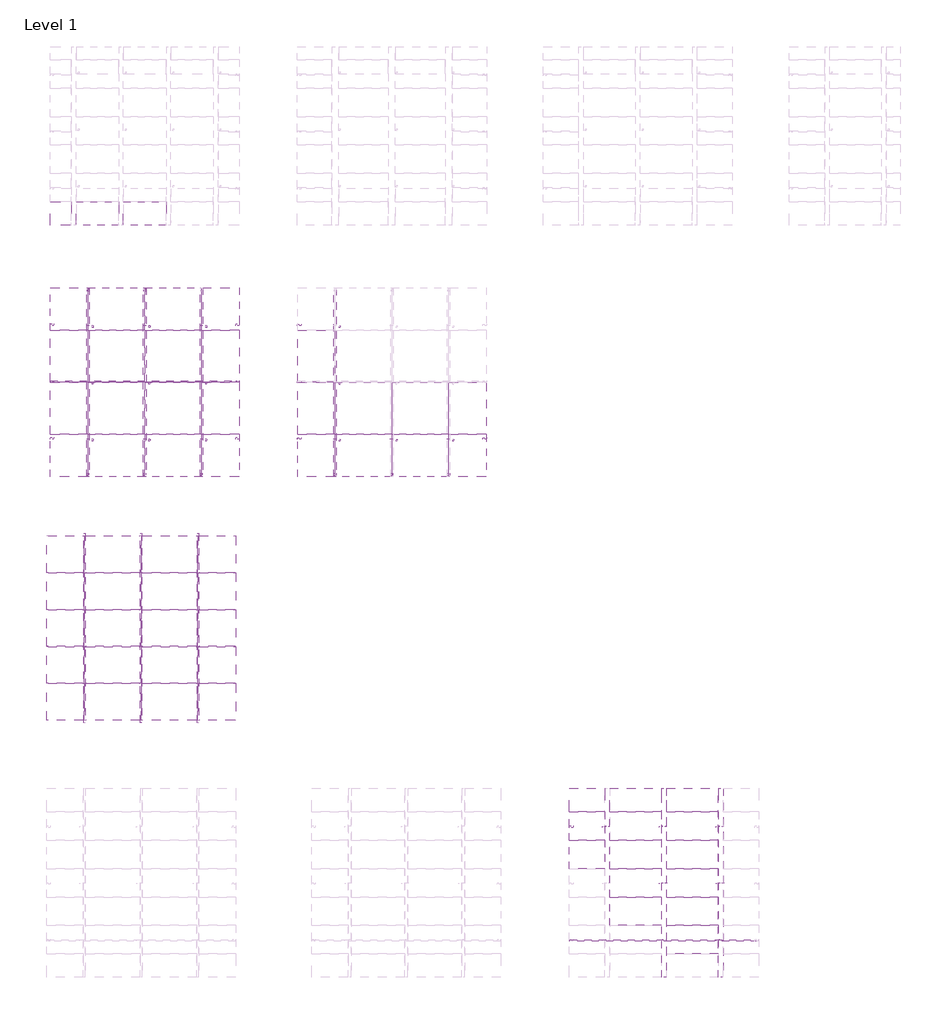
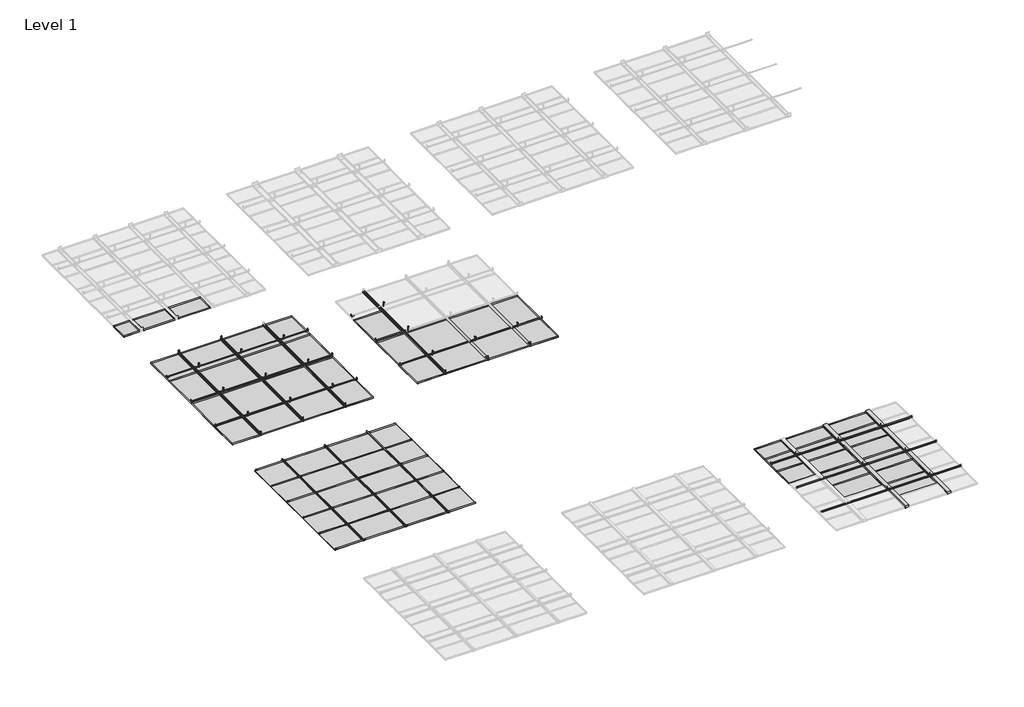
# One storey, part 2 of 32: 138 proxies.
"""IFC4 building model written with IfcOpenShell, lengths in millimetres."""

from ifc_helpers import new_model, si_unit, origin, place, context, project, spatial, transform, mapped, element, save
from components import generic_models_d1e42ad1, generic_models_d966d1ea, generic_models_a91f9f0f, generic_models_3457c1c0, generic_models_81118a57, generic_models_674eb8ab, generic_models_f7436aae, generic_models_c480849c, generic_models_9048d963, generic_models_4de4666e, generic_models_ac107275, generic_models_25bc2594, generic_models_84b6d0ed, generic_models_a920f71d, generic_models_5d724c03, generic_models_0fcaee43, generic_models_6363a089, generic_models_a7669d07, generic_models_2307843b, generic_models_9e18e937, generic_models_28f6a95c, generic_models_9ccf16c1, generic_models_743fb40c

model = new_model("IFC4")

# Units and contexts
model_context = context("Model", 3, world=origin())
ifc_project = project(units=[si_unit("LENGTHUNIT", "METRE", prefix="MILLI")], contexts=[model_context])

# Site, building, storey
site = spatial("IfcSite", under=ifc_project)
building = spatial("IfcBuilding", under=site)
storey = spatial("IfcBuildingStorey", under=building, Name="Level 1", Elevation=0.0)

# Proxies
placement = place(None, origin())
generic_models_shape = generic_models_d1e42ad1(model_context)
element("IfcBuildingElementProxy", 1, Name="durlum_S7_RHOMBOS : durlum_S7_RHOMBOS", ObjectType="durlum_S7_RHOMBOS : durlum_S7_RHOMBOS", at=placement, inside=storey, context=model_context, shape_type="MappedRepresentation", body=[
    mapped(generic_models_shape, transform((-44221.0989201, -7677.9044832, 0.0), x_axis=(1.0, 0.0, 0.0), y_axis=(0.0, 1.0, 0.0), z_axis=(0.0, 0.0, 1.0))),
])
generic_models_2_shape = generic_models_d966d1ea(model_context)
element("IfcBuildingElementProxy", 2, Name="durlum_S7_RHOMBOS_panel : durlum_S7_RHOMBOS_panel", ObjectType="durlum_S7_RHOMBOS_panel : durlum_S7_RHOMBOS_panel", at=placement, inside=storey, context=model_context, shape_type="MappedRepresentation", body=[
    mapped(generic_models_2_shape, transform((-44821.0989201, -8227.9044832, 3800.0), x_axis=(1.0, 0.0, 0.0), y_axis=(0.0, 1.0, 0.0), z_axis=(0.0, 0.0, 1.0))),
])
element("IfcBuildingElementProxy", 3, Name="durlum_S7_RHOMBOS_panel : durlum_S7_RHOMBOS_panel", ObjectType="durlum_S7_RHOMBOS_panel : durlum_S7_RHOMBOS_panel", at=placement, inside=storey, context=model_context, shape_type="MappedRepresentation", body=[
    mapped(generic_models_2_shape, transform((-43621.0989201, -8227.9044832, 3800.0), x_axis=(1.0, 0.0, 0.0), y_axis=(0.0, 1.0, 0.0), z_axis=(0.0, 0.0, 1.0))),
])
element("IfcBuildingElementProxy", 4, Name="durlum_S7_RHOMBOS_panel : durlum_S7_RHOMBOS_panel", ObjectType="durlum_S7_RHOMBOS_panel : durlum_S7_RHOMBOS_panel", at=placement, inside=storey, context=model_context, shape_type="MappedRepresentation", body=[
    mapped(generic_models_2_shape, transform((-44821.0989201, -7127.9044832, 3800.0), x_axis=(1.0, 0.0, 0.0), y_axis=(0.0, 1.0, 0.0), z_axis=(0.0, 0.0, 1.0))),
])
element("IfcBuildingElementProxy", 5, Name="durlum_S7_RHOMBOS_panel : durlum_S7_RHOMBOS_panel", ObjectType="durlum_S7_RHOMBOS_panel : durlum_S7_RHOMBOS_panel", at=placement, inside=storey, context=model_context, shape_type="MappedRepresentation", body=[
    mapped(generic_models_2_shape, transform((-43621.0989201, -7127.9044832, 3800.0), x_axis=(1.0, 0.0, 0.0), y_axis=(0.0, 1.0, 0.0), z_axis=(0.0, 0.0, 1.0))),
])
generic_models_3_shape = generic_models_a91f9f0f(model_context)
element("IfcBuildingElementProxy", 6, Name="durlum_S7_RHOMBOS_panel : durlum_S7_RHOMBOS_panel_wall_length_cut", ObjectType="durlum_S7_RHOMBOS_panel : durlum_S7_RHOMBOS_panel_wall_length_cut", at=placement, inside=storey, context=model_context, shape_type="MappedRepresentation", body=[
    mapped(generic_models_3_shape, transform((-45821.0989201, -8227.9044832, 3800.0), x_axis=(1.0, 0.0, 0.0), y_axis=(0.0, 1.0, 0.0), z_axis=(0.0, 0.0, 1.0))),
])
element("IfcBuildingElementProxy", 7, Name="durlum_S7_RHOMBOS_panel : durlum_S7_RHOMBOS_panel_wall_length_cut", ObjectType="durlum_S7_RHOMBOS_panel : durlum_S7_RHOMBOS_panel_wall_length_cut", at=placement, inside=storey, context=model_context, shape_type="MappedRepresentation", body=[
    mapped(generic_models_3_shape, transform((-42621.0989201, -8227.9044832, 3800.0), x_axis=(1.0, 0.0, 0.0), y_axis=(0.0, 1.0, 0.0), z_axis=(0.0, 0.0, 1.0))),
])
element("IfcBuildingElementProxy", 8, Name="durlum_S7_RHOMBOS_panel : durlum_S7_RHOMBOS_panel_wall_length_cut", ObjectType="durlum_S7_RHOMBOS_panel : durlum_S7_RHOMBOS_panel_wall_length_cut", at=placement, inside=storey, context=model_context, shape_type="MappedRepresentation", body=[
    mapped(generic_models_3_shape, transform((-42621.0989201, -7127.9044832, 3800.0), x_axis=(1.0, 0.0, 0.0), y_axis=(0.0, 1.0, 0.0), z_axis=(0.0, 0.0, 1.0))),
])
element("IfcBuildingElementProxy", 9, Name="durlum_S7_RHOMBOS_panel : durlum_S7_RHOMBOS_panel_wall_length_cut", ObjectType="durlum_S7_RHOMBOS_panel : durlum_S7_RHOMBOS_panel_wall_length_cut", at=placement, inside=storey, context=model_context, shape_type="MappedRepresentation", body=[
    mapped(generic_models_3_shape, transform((-45821.0989201, -7127.9044832, 3800.0), x_axis=(1.0, 0.0, 0.0), y_axis=(0.0, 1.0, 0.0), z_axis=(0.0, 0.0, 1.0))),
])
generic_models_4_shape = generic_models_3457c1c0(model_context)
element("IfcBuildingElementProxy", 10, Name="durlum_S7_RHOMBOS_panel : durlum_S7_RHOMBOS_panel_wall_width_cut", ObjectType="durlum_S7_RHOMBOS_panel : durlum_S7_RHOMBOS_panel_wall_width_cut", at=placement, inside=storey, context=model_context, shape_type="MappedRepresentation", body=[
    mapped(generic_models_4_shape, transform((-43621.0989201, -9227.9044832, 3800.0), x_axis=(1.0, 0.0, 0.0), y_axis=(0.0, 1.0, 0.0), z_axis=(0.0, 0.0, 1.0))),
])
element("IfcBuildingElementProxy", 11, Name="durlum_S7_RHOMBOS_panel : durlum_S7_RHOMBOS_panel_wall_width_cut", ObjectType="durlum_S7_RHOMBOS_panel : durlum_S7_RHOMBOS_panel_wall_width_cut", at=placement, inside=storey, context=model_context, shape_type="MappedRepresentation", body=[
    mapped(generic_models_4_shape, transform((-43621.0989201, -6127.9044832, 3800.0), x_axis=(1.0, 0.0, 0.0), y_axis=(0.0, 1.0, 0.0), z_axis=(0.0, 0.0, 1.0))),
])
element("IfcBuildingElementProxy", 12, Name="durlum_S7_RHOMBOS_panel : durlum_S7_RHOMBOS_panel_wall_width_cut", ObjectType="durlum_S7_RHOMBOS_panel : durlum_S7_RHOMBOS_panel_wall_width_cut", at=placement, inside=storey, context=model_context, shape_type="MappedRepresentation", body=[
    mapped(generic_models_4_shape, transform((-44821.0989201, -9227.9044832, 3800.0), x_axis=(1.0, 0.0, 0.0), y_axis=(0.0, 1.0, 0.0), z_axis=(0.0, 0.0, 1.0))),
])
element("IfcBuildingElementProxy", 13, Name="durlum_S7_RHOMBOS_panel : durlum_S7_RHOMBOS_panel_wall_width_cut", ObjectType="durlum_S7_RHOMBOS_panel : durlum_S7_RHOMBOS_panel_wall_width_cut", at=placement, inside=storey, context=model_context, shape_type="MappedRepresentation", body=[
    mapped(generic_models_4_shape, transform((-44821.0989201, -6127.9044832, 3800.0), x_axis=(1.0, 0.0, 0.0), y_axis=(0.0, 1.0, 0.0), z_axis=(0.0, 0.0, 1.0))),
])
generic_models_5_shape = generic_models_81118a57(model_context)
element("IfcBuildingElementProxy", 14, Name="durlum_S7_RHOMBOS_panel : durlum_S7_RHOMBOS_panel_wall_corner", ObjectType="durlum_S7_RHOMBOS_panel : durlum_S7_RHOMBOS_panel_wall_corner", at=placement, inside=storey, context=model_context, shape_type="MappedRepresentation", body=[
    mapped(generic_models_5_shape, transform((-45821.0989201, -9227.9044832, 3800.0), x_axis=(1.0, 0.0, 0.0), y_axis=(0.0, 1.0, 0.0), z_axis=(0.0, 0.0, 1.0))),
])
element("IfcBuildingElementProxy", 15, Name="durlum_S7_RHOMBOS_panel : durlum_S7_RHOMBOS_panel_wall_corner", ObjectType="durlum_S7_RHOMBOS_panel : durlum_S7_RHOMBOS_panel_wall_corner", at=placement, inside=storey, context=model_context, shape_type="MappedRepresentation", body=[
    mapped(generic_models_5_shape, transform((-42621.0989201, -9227.9044832, 3800.0), x_axis=(1.0, 0.0, 0.0), y_axis=(0.0, 1.0, 0.0), z_axis=(0.0, 0.0, 1.0))),
])
element("IfcBuildingElementProxy", 16, Name="durlum_S7_RHOMBOS_panel : durlum_S7_RHOMBOS_panel_wall_corner", ObjectType="durlum_S7_RHOMBOS_panel : durlum_S7_RHOMBOS_panel_wall_corner", at=placement, inside=storey, context=model_context, shape_type="MappedRepresentation", body=[
    mapped(generic_models_5_shape, transform((-42621.0989201, -6127.9044832, 3800.0), x_axis=(1.0, 0.0, 0.0), y_axis=(0.0, 1.0, 0.0), z_axis=(0.0, 0.0, 1.0))),
])
element("IfcBuildingElementProxy", 17, Name="durlum_S7_RHOMBOS_panel : durlum_S7_RHOMBOS_panel_wall_corner", ObjectType="durlum_S7_RHOMBOS_panel : durlum_S7_RHOMBOS_panel_wall_corner", at=placement, inside=storey, context=model_context, shape_type="MappedRepresentation", body=[
    mapped(generic_models_5_shape, transform((-45821.0989201, -6127.9044832, 3800.0), x_axis=(1.0, 0.0, 0.0), y_axis=(0.0, 1.0, 0.0), z_axis=(0.0, 0.0, 1.0))),
])
element("IfcBuildingElementProxy", 18, Name="durlum_S7KS_RHOMBOS_panel : durlum_S7KS_RHOMBOS_panel", ObjectType="durlum_S7KS_RHOMBOS_panel : durlum_S7KS_RHOMBOS_panel", at=placement, inside=storey, context=model_context, shape_type="MappedRepresentation", body=[
    mapped(generic_models_2_shape, transform((-39595.2269838, -8232.3044832, 3800.0), x_axis=(1.0, 0.0, 0.0), y_axis=(0.0, 1.0, 0.0), z_axis=(0.0, 0.0, 1.0))),
])
element("IfcBuildingElementProxy", 19, Name="durlum_S7KS_RHOMBOS_panel : durlum_S7KS_RHOMBOS_panel", ObjectType="durlum_S7KS_RHOMBOS_panel : durlum_S7KS_RHOMBOS_panel", at=placement, inside=storey, context=model_context, shape_type="MappedRepresentation", body=[
    mapped(generic_models_2_shape, transform((-38395.2269838, -8232.3044832, 3800.0), x_axis=(1.0, 0.0, 0.0), y_axis=(0.0, 1.0, 0.0), z_axis=(0.0, 0.0, 1.0))),
])
element("IfcBuildingElementProxy", 20, Name="durlum_S7KS_RHOMBOS_panel : durlum_S7KS_RHOMBOS_panel_wall_length_cut", ObjectType="durlum_S7KS_RHOMBOS_panel : durlum_S7KS_RHOMBOS_panel_wall_length_cut", at=placement, inside=storey, context=model_context, shape_type="MappedRepresentation", body=[
    mapped(generic_models_3_shape, transform((-40595.2269838, -8232.3044832, 3800.0), x_axis=(1.0, 0.0, 0.0), y_axis=(0.0, 1.0, 0.0), z_axis=(0.0, 0.0, 1.0))),
])
element("IfcBuildingElementProxy", 21, Name="durlum_S7KS_RHOMBOS_panel : durlum_S7KS_RHOMBOS_panel_wall_length_cut", ObjectType="durlum_S7KS_RHOMBOS_panel : durlum_S7KS_RHOMBOS_panel_wall_length_cut", at=placement, inside=storey, context=model_context, shape_type="MappedRepresentation", body=[
    mapped(generic_models_3_shape, transform((-37395.2269838, -8232.3044832, 3800.0), x_axis=(1.0, 0.0, 0.0), y_axis=(0.0, 1.0, 0.0), z_axis=(0.0, 0.0, 1.0))),
])
element("IfcBuildingElementProxy", 22, Name="durlum_S7KS_RHOMBOS_panel : durlum_S7KS_RHOMBOS_panel_wall_length_cut", ObjectType="durlum_S7KS_RHOMBOS_panel : durlum_S7KS_RHOMBOS_panel_wall_length_cut", at=placement, inside=storey, context=model_context, shape_type="MappedRepresentation", body=[
    mapped(generic_models_3_shape, transform((-40595.2269838, -7132.3044832, 3800.0), x_axis=(1.0, 0.0, 0.0), y_axis=(0.0, 1.0, 0.0), z_axis=(0.0, 0.0, 1.0))),
])
element("IfcBuildingElementProxy", 23, Name="durlum_S7KS_RHOMBOS_panel : durlum_S7KS_RHOMBOS_panel_wall_width_cut", ObjectType="durlum_S7KS_RHOMBOS_panel : durlum_S7KS_RHOMBOS_panel_wall_width_cut", at=placement, inside=storey, context=model_context, shape_type="MappedRepresentation", body=[
    mapped(generic_models_4_shape, transform((-38395.2269838, -9232.3044832, 3800.0), x_axis=(1.0, 0.0, 0.0), y_axis=(0.0, 1.0, 0.0), z_axis=(0.0, 0.0, 1.0))),
])
element("IfcBuildingElementProxy", 24, Name="durlum_S7KS_RHOMBOS_panel : durlum_S7KS_RHOMBOS_panel_wall_width_cut", ObjectType="durlum_S7KS_RHOMBOS_panel : durlum_S7KS_RHOMBOS_panel_wall_width_cut", at=placement, inside=storey, context=model_context, shape_type="MappedRepresentation", body=[
    mapped(generic_models_4_shape, transform((-39595.2269838, -9232.3044832, 3800.0), x_axis=(1.0, 0.0, 0.0), y_axis=(0.0, 1.0, 0.0), z_axis=(0.0, 0.0, 1.0))),
])
element("IfcBuildingElementProxy", 25, Name="durlum_S7KS_RHOMBOS_panel : durlum_S7KS_RHOMBOS_panel_wall_corner", ObjectType="durlum_S7KS_RHOMBOS_panel : durlum_S7KS_RHOMBOS_panel_wall_corner", at=placement, inside=storey, context=model_context, shape_type="MappedRepresentation", body=[
    mapped(generic_models_5_shape, transform((-40595.2269838, -9232.3044832, 3800.0), x_axis=(1.0, 0.0, 0.0), y_axis=(0.0, 1.0, 0.0), z_axis=(0.0, 0.0, 1.0))),
])
element("IfcBuildingElementProxy", 26, Name="durlum_S7KS_RHOMBOS_panel : durlum_S7KS_RHOMBOS_panel_wall_corner", ObjectType="durlum_S7KS_RHOMBOS_panel : durlum_S7KS_RHOMBOS_panel_wall_corner", at=placement, inside=storey, context=model_context, shape_type="MappedRepresentation", body=[
    mapped(generic_models_5_shape, transform((-37395.2269838, -9232.3044832, 3800.0), x_axis=(1.0, 0.0, 0.0), y_axis=(0.0, 1.0, 0.0), z_axis=(0.0, 0.0, 1.0))),
])
generic_models_6_shape = generic_models_674eb8ab(model_context)
element("IfcBuildingElementProxy", 27, Name="durlum_U1093 : durlum_U1093", ObjectType="durlum_U1093 : durlum_U1093", at=placement, inside=storey, context=model_context, shape_type="MappedRepresentation", body=[
    mapped(generic_models_6_shape, transform((-44297.4152168, -12876.0449025, 3829.0), x_axis=(0.0, -1.0, 0.0), y_axis=(1.0, 0.0, 0.0), z_axis=(0.0, 0.0, 1.0))),
])
element("IfcBuildingElementProxy", 28, Name="durlum_U1093 : durlum_U1093", ObjectType="durlum_U1093 : durlum_U1093", at=placement, inside=storey, context=model_context, shape_type="MappedRepresentation", body=[
    mapped(generic_models_6_shape, transform((-43097.4152168, -12876.0449025, 3829.0), x_axis=(0.0, -1.0, 0.0), y_axis=(1.0, 0.0, 0.0), z_axis=(0.0, 0.0, 1.0))),
])
element("IfcBuildingElementProxy", 29, Name="durlum_U1093 : durlum_U1093", ObjectType="durlum_U1093 : durlum_U1093", at=placement, inside=storey, context=model_context, shape_type="MappedRepresentation", body=[
    mapped(generic_models_6_shape, transform((-45497.4152168, -12876.0449025, 3829.0), x_axis=(0.0, -1.0, 0.0), y_axis=(1.0, 0.0, 0.0), z_axis=(0.0, 0.0, 1.0))),
])
generic_models_7_shape = generic_models_f7436aae(model_context)
element("IfcBuildingElementProxy", 30, Name="durlum_S10H_RHOMBOS_panel : durlum_S10H_RHOMBOS_panel", ObjectType="durlum_S10H_RHOMBOS_panel : durlum_S10H_RHOMBOS_panel", at=placement, inside=storey, context=model_context, shape_type="MappedRepresentation", body=[
    mapped(generic_models_7_shape, transform((-44897.4152168, -13656.0449025, 3800.0), x_axis=(1.0, 0.0, 0.0), y_axis=(0.0, 1.0, 0.0), z_axis=(0.0, 0.0, 1.0))),
])
element("IfcBuildingElementProxy", 31, Name="durlum_S10H_RHOMBOS_panel : durlum_S10H_RHOMBOS_panel", ObjectType="durlum_S10H_RHOMBOS_panel : durlum_S10H_RHOMBOS_panel", at=placement, inside=storey, context=model_context, shape_type="MappedRepresentation", body=[
    mapped(generic_models_7_shape, transform((-43697.4152168, -13656.0449025, 3800.0), x_axis=(1.0, 0.0, 0.0), y_axis=(0.0, 1.0, 0.0), z_axis=(0.0, 0.0, 1.0))),
])
element("IfcBuildingElementProxy", 32, Name="durlum_S10H_RHOMBOS_panel : durlum_S10H_RHOMBOS_panel", ObjectType="durlum_S10H_RHOMBOS_panel : durlum_S10H_RHOMBOS_panel", at=placement, inside=storey, context=model_context, shape_type="MappedRepresentation", body=[
    mapped(generic_models_7_shape, transform((-44897.4152168, -12876.0449025, 3800.0), x_axis=(1.0, 0.0, 0.0), y_axis=(0.0, 1.0, 0.0), z_axis=(0.0, 0.0, 1.0))),
])
element("IfcBuildingElementProxy", 33, Name="durlum_S10H_RHOMBOS_panel : durlum_S10H_RHOMBOS_panel", ObjectType="durlum_S10H_RHOMBOS_panel : durlum_S10H_RHOMBOS_panel", at=placement, inside=storey, context=model_context, shape_type="MappedRepresentation", body=[
    mapped(generic_models_7_shape, transform((-43697.4152168, -12876.0449025, 3800.0), x_axis=(1.0, 0.0, 0.0), y_axis=(0.0, 1.0, 0.0), z_axis=(0.0, 0.0, 1.0))),
])
element("IfcBuildingElementProxy", 34, Name="durlum_S10H_RHOMBOS_panel : durlum_S10H_RHOMBOS_panel", ObjectType="durlum_S10H_RHOMBOS_panel : durlum_S10H_RHOMBOS_panel", at=placement, inside=storey, context=model_context, shape_type="MappedRepresentation", body=[
    mapped(generic_models_7_shape, transform((-44897.4152168, -12096.0449025, 3800.0), x_axis=(1.0, 0.0, 0.0), y_axis=(0.0, 1.0, 0.0), z_axis=(0.0, 0.0, 1.0))),
])
element("IfcBuildingElementProxy", 35, Name="durlum_S10H_RHOMBOS_panel : durlum_S10H_RHOMBOS_panel", ObjectType="durlum_S10H_RHOMBOS_panel : durlum_S10H_RHOMBOS_panel", at=placement, inside=storey, context=model_context, shape_type="MappedRepresentation", body=[
    mapped(generic_models_7_shape, transform((-43697.4152168, -12096.0449025, 3800.0), x_axis=(1.0, 0.0, 0.0), y_axis=(0.0, 1.0, 0.0), z_axis=(0.0, 0.0, 1.0))),
])
element("IfcBuildingElementProxy", 36, Name="durlum_S10H_RHOMBOS_panel : durlum_S10H_RHOMBOS_panel", ObjectType="durlum_S10H_RHOMBOS_panel : durlum_S10H_RHOMBOS_panel", at=placement, inside=storey, context=model_context, shape_type="MappedRepresentation", body=[
    mapped(generic_models_7_shape, transform((-44897.4152168, -14436.0449025, 3800.0), x_axis=(1.0, 0.0, 0.0), y_axis=(0.0, 1.0, 0.0), z_axis=(0.0, 0.0, 1.0))),
])
element("IfcBuildingElementProxy", 37, Name="durlum_S10H_RHOMBOS_panel : durlum_S10H_RHOMBOS_panel", ObjectType="durlum_S10H_RHOMBOS_panel : durlum_S10H_RHOMBOS_panel", at=placement, inside=storey, context=model_context, shape_type="MappedRepresentation", body=[
    mapped(generic_models_7_shape, transform((-43697.4152168, -14436.0449025, 3800.0), x_axis=(1.0, 0.0, 0.0), y_axis=(0.0, 1.0, 0.0), z_axis=(0.0, 0.0, 1.0))),
])
element("IfcBuildingElementProxy", 38, Name="durlum_S10H_RHOMBOS_panel : durlum_S10H_RHOMBOS_panel", ObjectType="durlum_S10H_RHOMBOS_panel : durlum_S10H_RHOMBOS_panel", at=placement, inside=storey, context=model_context, shape_type="MappedRepresentation", body=[
    mapped(generic_models_7_shape, transform((-44897.4152168, -11316.0449025, 3800.0), x_axis=(1.0, 0.0, 0.0), y_axis=(0.0, 1.0, 0.0), z_axis=(0.0, 0.0, 1.0))),
])
element("IfcBuildingElementProxy", 39, Name="durlum_S10H_RHOMBOS_panel : durlum_S10H_RHOMBOS_panel", ObjectType="durlum_S10H_RHOMBOS_panel : durlum_S10H_RHOMBOS_panel", at=placement, inside=storey, context=model_context, shape_type="MappedRepresentation", body=[
    mapped(generic_models_7_shape, transform((-43697.4152168, -11316.0449025, 3800.0), x_axis=(1.0, 0.0, 0.0), y_axis=(0.0, 1.0, 0.0), z_axis=(0.0, 0.0, 1.0))),
])
generic_models_8_shape = generic_models_c480849c(model_context)
element("IfcBuildingElementProxy", 40, Name="durlum_S10H_RHOMBOS_panel : durlum_S10H_RHOMBOS_panel_wall_length_cut", ObjectType="durlum_S10H_RHOMBOS_panel : durlum_S10H_RHOMBOS_panel_wall_length_cut", at=placement, inside=storey, context=model_context, shape_type="MappedRepresentation", body=[
    mapped(generic_models_8_shape, transform((-45897.4152168, -13656.0449025, 3800.0), x_axis=(1.0, 0.0, 0.0), y_axis=(0.0, 1.0, 0.0), z_axis=(0.0, 0.0, 1.0))),
])
element("IfcBuildingElementProxy", 41, Name="durlum_S10H_RHOMBOS_panel : durlum_S10H_RHOMBOS_panel_wall_length_cut", ObjectType="durlum_S10H_RHOMBOS_panel : durlum_S10H_RHOMBOS_panel_wall_length_cut", at=placement, inside=storey, context=model_context, shape_type="MappedRepresentation", body=[
    mapped(generic_models_8_shape, transform((-45897.4152168, -12876.0449025, 3800.0), x_axis=(1.0, 0.0, 0.0), y_axis=(0.0, 1.0, 0.0), z_axis=(0.0, 0.0, 1.0))),
])
element("IfcBuildingElementProxy", 42, Name="durlum_S10H_RHOMBOS_panel : durlum_S10H_RHOMBOS_panel_wall_length_cut", ObjectType="durlum_S10H_RHOMBOS_panel : durlum_S10H_RHOMBOS_panel_wall_length_cut", at=placement, inside=storey, context=model_context, shape_type="MappedRepresentation", body=[
    mapped(generic_models_8_shape, transform((-42697.4152168, -13656.0449025, 3800.0), x_axis=(1.0, 0.0, 0.0), y_axis=(0.0, 1.0, 0.0), z_axis=(0.0, 0.0, 1.0))),
])
element("IfcBuildingElementProxy", 43, Name="durlum_S10H_RHOMBOS_panel : durlum_S10H_RHOMBOS_panel_wall_length_cut", ObjectType="durlum_S10H_RHOMBOS_panel : durlum_S10H_RHOMBOS_panel_wall_length_cut", at=placement, inside=storey, context=model_context, shape_type="MappedRepresentation", body=[
    mapped(generic_models_8_shape, transform((-42697.4152168, -12876.0449025, 3800.0), x_axis=(1.0, 0.0, 0.0), y_axis=(0.0, 1.0, 0.0), z_axis=(0.0, 0.0, 1.0))),
])
element("IfcBuildingElementProxy", 44, Name="durlum_S10H_RHOMBOS_panel : durlum_S10H_RHOMBOS_panel_wall_length_cut", ObjectType="durlum_S10H_RHOMBOS_panel : durlum_S10H_RHOMBOS_panel_wall_length_cut", at=placement, inside=storey, context=model_context, shape_type="MappedRepresentation", body=[
    mapped(generic_models_8_shape, transform((-45897.4152168, -12096.0449025, 3800.0), x_axis=(1.0, 0.0, 0.0), y_axis=(0.0, 1.0, 0.0), z_axis=(0.0, 0.0, 1.0))),
])
element("IfcBuildingElementProxy", 45, Name="durlum_S10H_RHOMBOS_panel : durlum_S10H_RHOMBOS_panel_wall_length_cut", ObjectType="durlum_S10H_RHOMBOS_panel : durlum_S10H_RHOMBOS_panel_wall_length_cut", at=placement, inside=storey, context=model_context, shape_type="MappedRepresentation", body=[
    mapped(generic_models_8_shape, transform((-42697.4152168, -12096.0449025, 3800.0), x_axis=(1.0, 0.0, 0.0), y_axis=(0.0, 1.0, 0.0), z_axis=(0.0, 0.0, 1.0))),
])
element("IfcBuildingElementProxy", 46, Name="durlum_S10H_RHOMBOS_panel : durlum_S10H_RHOMBOS_panel_wall_length_cut", ObjectType="durlum_S10H_RHOMBOS_panel : durlum_S10H_RHOMBOS_panel_wall_length_cut", at=placement, inside=storey, context=model_context, shape_type="MappedRepresentation", body=[
    mapped(generic_models_8_shape, transform((-45897.4152168, -14436.0449025, 3800.0), x_axis=(1.0, 0.0, 0.0), y_axis=(0.0, 1.0, 0.0), z_axis=(0.0, 0.0, 1.0))),
])
element("IfcBuildingElementProxy", 47, Name="durlum_S10H_RHOMBOS_panel : durlum_S10H_RHOMBOS_panel_wall_length_cut", ObjectType="durlum_S10H_RHOMBOS_panel : durlum_S10H_RHOMBOS_panel_wall_length_cut", at=placement, inside=storey, context=model_context, shape_type="MappedRepresentation", body=[
    mapped(generic_models_8_shape, transform((-42697.4152168, -14436.0449025, 3800.0), x_axis=(1.0, 0.0, 0.0), y_axis=(0.0, 1.0, 0.0), z_axis=(0.0, 0.0, 1.0))),
])
element("IfcBuildingElementProxy", 48, Name="durlum_S10H_RHOMBOS_panel : durlum_S10H_RHOMBOS_panel_wall_length_cut", ObjectType="durlum_S10H_RHOMBOS_panel : durlum_S10H_RHOMBOS_panel_wall_length_cut", at=placement, inside=storey, context=model_context, shape_type="MappedRepresentation", body=[
    mapped(generic_models_8_shape, transform((-42697.4152168, -11316.0449025, 3800.0), x_axis=(1.0, 0.0, 0.0), y_axis=(0.0, 1.0, 0.0), z_axis=(0.0, 0.0, 1.0))),
])
element("IfcBuildingElementProxy", 49, Name="durlum_S10H_RHOMBOS_panel : durlum_S10H_RHOMBOS_panel_wall_length_cut", ObjectType="durlum_S10H_RHOMBOS_panel : durlum_S10H_RHOMBOS_panel_wall_length_cut", at=placement, inside=storey, context=model_context, shape_type="MappedRepresentation", body=[
    mapped(generic_models_8_shape, transform((-45897.4152168, -11316.0449025, 3800.0), x_axis=(1.0, 0.0, 0.0), y_axis=(0.0, 1.0, 0.0), z_axis=(0.0, 0.0, 1.0))),
])
generic_models_9_shape = generic_models_9048d963(model_context)
element("IfcBuildingElementProxy", 50, Name="durlum_S5-100_RHOMBOS_panel : durlum_S5-100_RHOMBOS_panel_wall_width_cut", ObjectType="durlum_S5-100_RHOMBOS_panel : durlum_S5-100_RHOMBOS_panel_wall_width_cut", at=placement, inside=storey, context=model_context, shape_type="MappedRepresentation", body=[
    mapped(generic_models_9_shape, transform((-45221.0989201, -4111.3211481, 3800.0), x_axis=(1.0, 0.0, 0.0), y_axis=(0.0, 1.0, 0.0), z_axis=(0.0, 0.0, 1.0))),
])
element("IfcBuildingElementProxy", 51, Name="durlum_S5-100_RHOMBOS_panel : durlum_S5-100_RHOMBOS_panel_wall_width_cut", ObjectType="durlum_S5-100_RHOMBOS_panel : durlum_S5-100_RHOMBOS_panel_wall_width_cut", at=placement, inside=storey, context=model_context, shape_type="MappedRepresentation", body=[
    mapped(generic_models_9_shape, transform((-44221.0989201, -4111.3211481, 3800.0), x_axis=(1.0, 0.0, 0.0), y_axis=(0.0, 1.0, 0.0), z_axis=(0.0, 0.0, 1.0))),
])
generic_models_10_shape = generic_models_4de4666e(model_context)
element("IfcBuildingElementProxy", 52, Name="durlum_S5-100_RHOMBOS_panel : durlum_S5-100_RHOMBOS_panel_wall_corner", ObjectType="durlum_S5-100_RHOMBOS_panel : durlum_S5-100_RHOMBOS_panel_wall_corner", at=placement, inside=storey, context=model_context, shape_type="MappedRepresentation", body=[
    mapped(generic_models_10_shape, transform((-45996.3489201, -4111.3211481, 3800.0), x_axis=(1.0, 0.0, 0.0), y_axis=(0.0, 1.0, 0.0), z_axis=(0.0, 0.0, 1.0))),
])
generic_models_11_shape = generic_models_ac107275(model_context)
element("IfcBuildingElementProxy", 53, Name="durlum_U1300 : durlum_U1300", ObjectType="durlum_U1300 : durlum_U1300", at=placement, inside=storey, context=model_context, shape_type="MappedRepresentation", body=[
    mapped(generic_models_11_shape, transform((-45321.0989201, -6477.9044832, 3150.4124682), x_axis=(1.0, 0.0, 0.0), y_axis=(0.0, 1.0, 0.0), z_axis=(0.0, 0.0, 1.0))),
])
element("IfcBuildingElementProxy", 54, Name="durlum_U1300 : durlum_U1300", ObjectType="durlum_U1300 : durlum_U1300", at=placement, inside=storey, context=model_context, shape_type="MappedRepresentation", body=[
    mapped(generic_models_11_shape, transform((-42921.0989201, -6477.9044832, 3150.4124682), x_axis=(1.0, 0.0, 0.0), y_axis=(0.0, 1.0, 0.0), z_axis=(0.0, 0.0, 1.0))),
])
element("IfcBuildingElementProxy", 55, Name="durlum_U1300 : durlum_U1300", ObjectType="durlum_U1300 : durlum_U1300", at=placement, inside=storey, context=model_context, shape_type="MappedRepresentation", body=[
    mapped(generic_models_11_shape, transform((-44121.0989201, -6477.9044832, 3150.4124682), x_axis=(1.0, 0.0, 0.0), y_axis=(0.0, 1.0, 0.0), z_axis=(0.0, 0.0, 1.0))),
])
element("IfcBuildingElementProxy", 56, Name="durlum_U1300 : durlum_U1300", ObjectType="durlum_U1300 : durlum_U1300", at=placement, inside=storey, context=model_context, shape_type="MappedRepresentation", body=[
    mapped(generic_models_11_shape, transform((-45321.0989201, -8877.9044832, 3150.4124682), x_axis=(1.0, 0.0, 0.0), y_axis=(0.0, 1.0, 0.0), z_axis=(0.0, 0.0, 1.0))),
])
element("IfcBuildingElementProxy", 57, Name="durlum_U1300 : durlum_U1300", ObjectType="durlum_U1300 : durlum_U1300", at=placement, inside=storey, context=model_context, shape_type="MappedRepresentation", body=[
    mapped(generic_models_11_shape, transform((-42921.0989201, -8877.9044832, 3150.4124682), x_axis=(1.0, 0.0, 0.0), y_axis=(0.0, 1.0, 0.0), z_axis=(0.0, 0.0, 1.0))),
])
element("IfcBuildingElementProxy", 58, Name="durlum_U1300 : durlum_U1300", ObjectType="durlum_U1300 : durlum_U1300", at=placement, inside=storey, context=model_context, shape_type="MappedRepresentation", body=[
    mapped(generic_models_11_shape, transform((-44121.0989201, -8877.9044832, 3150.4124682), x_axis=(1.0, 0.0, 0.0), y_axis=(0.0, 1.0, 0.0), z_axis=(0.0, 0.0, 1.0))),
])
element("IfcBuildingElementProxy", 59, Name="durlum_U1300 : durlum_U1300", ObjectType="durlum_U1300 : durlum_U1300", at=placement, inside=storey, context=model_context, shape_type="MappedRepresentation", body=[
    mapped(generic_models_11_shape, transform((-45321.0989201, -7677.9044832, 3150.4124682), x_axis=(1.0, 0.0, 0.0), y_axis=(0.0, 1.0, 0.0), z_axis=(0.0, 0.0, 1.0))),
])
element("IfcBuildingElementProxy", 60, Name="durlum_U1300 : durlum_U1300", ObjectType="durlum_U1300 : durlum_U1300", at=placement, inside=storey, context=model_context, shape_type="MappedRepresentation", body=[
    mapped(generic_models_11_shape, transform((-42921.0989201, -7677.9044832, 3150.4124682), x_axis=(1.0, 0.0, 0.0), y_axis=(0.0, 1.0, 0.0), z_axis=(0.0, 0.0, 1.0))),
])
element("IfcBuildingElementProxy", 61, Name="durlum_U1300 : durlum_U1300", ObjectType="durlum_U1300 : durlum_U1300", at=placement, inside=storey, context=model_context, shape_type="MappedRepresentation", body=[
    mapped(generic_models_11_shape, transform((-44121.0989201, -7677.9044832, 3150.4124682), x_axis=(1.0, 0.0, 0.0), y_axis=(0.0, 1.0, 0.0), z_axis=(0.0, 0.0, 1.0))),
])
element("IfcBuildingElementProxy", 62, Name="durlum_U1300 : durlum_U1300", ObjectType="durlum_U1300 : durlum_U1300", at=placement, inside=storey, context=model_context, shape_type="MappedRepresentation", body=[
    mapped(generic_models_11_shape, transform((-40095.2269838, -6482.3044832, 3150.4124682), x_axis=(1.0, 0.0, 0.0), y_axis=(0.0, 1.0, 0.0), z_axis=(0.0, 0.0, 1.0))),
])
element("IfcBuildingElementProxy", 63, Name="durlum_U1300 : durlum_U1300", ObjectType="durlum_U1300 : durlum_U1300", at=placement, inside=storey, context=model_context, shape_type="MappedRepresentation", body=[
    mapped(generic_models_11_shape, transform((-40095.2269838, -8882.3044832, 3150.4124682), x_axis=(1.0, 0.0, 0.0), y_axis=(0.0, 1.0, 0.0), z_axis=(0.0, 0.0, 1.0))),
])
element("IfcBuildingElementProxy", 64, Name="durlum_U1300 : durlum_U1300", ObjectType="durlum_U1300 : durlum_U1300", at=placement, inside=storey, context=model_context, shape_type="MappedRepresentation", body=[
    mapped(generic_models_11_shape, transform((-37695.2269838, -8882.3044832, 3150.4124682), x_axis=(1.0, 0.0, 0.0), y_axis=(0.0, 1.0, 0.0), z_axis=(0.0, 0.0, 1.0))),
])
element("IfcBuildingElementProxy", 65, Name="durlum_U1300 : durlum_U1300", ObjectType="durlum_U1300 : durlum_U1300", at=placement, inside=storey, context=model_context, shape_type="MappedRepresentation", body=[
    mapped(generic_models_11_shape, transform((-38895.2269838, -8882.3044832, 3150.4124682), x_axis=(1.0, 0.0, 0.0), y_axis=(0.0, 1.0, 0.0), z_axis=(0.0, 0.0, 1.0))),
])
element("IfcBuildingElementProxy", 66, Name="durlum_U1300 : durlum_U1300", ObjectType="durlum_U1300 : durlum_U1300", at=placement, inside=storey, context=model_context, shape_type="MappedRepresentation", body=[
    mapped(generic_models_11_shape, transform((-40095.2269838, -7682.3044832, 3150.4124682), x_axis=(1.0, 0.0, 0.0), y_axis=(0.0, 1.0, 0.0), z_axis=(0.0, 0.0, 1.0))),
])
generic_models_12_shape = generic_models_25bc2594(model_context)
element("IfcBuildingElementProxy", 67, Name="durlum_OMEGA_100 : durlum_OMEGA_100", ObjectType="durlum_OMEGA_100 : durlum_OMEGA_100", at=placement, inside=storey, context=model_context, shape_type="MappedRepresentation", body=[
    mapped(generic_models_12_shape, transform((-33243.3162584, -18263.6758377, 3800.0), x_axis=(0.0, -1.0, 0.0), y_axis=(1.0, 0.0, 0.0), z_axis=(0.0, 0.0, 1.0))),
])
element("IfcBuildingElementProxy", 68, Name="durlum_OMEGA_100 : durlum_OMEGA_100", ObjectType="durlum_OMEGA_100 : durlum_OMEGA_100", at=placement, inside=storey, context=model_context, shape_type="MappedRepresentation", body=[
    mapped(generic_models_12_shape, transform((-32043.3162584, -18263.6758377, 3800.0), x_axis=(0.0, -1.0, 0.0), y_axis=(1.0, 0.0, 0.0), z_axis=(0.0, 0.0, 1.0))),
])
generic_models_13_shape = generic_models_84b6d0ed(model_context)
element("IfcBuildingElementProxy", 69, Name="durlum_OM76_bracket : durlum_OM76_bracket", ObjectType="durlum_OM76_bracket : durlum_OM76_bracket", at=placement, inside=storey, context=model_context, shape_type="MappedRepresentation", body=[
    mapped(generic_models_13_shape, transform((-32003.3162584, -18262.1758377, 3864.0), x_axis=(1.0, 0.0, 0.0), y_axis=(0.0, 1.0, 0.0), z_axis=(0.0, 0.0, 1.0))),
])
element("IfcBuildingElementProxy", 70, Name="durlum_OM76_bracket : durlum_OM76_bracket", ObjectType="durlum_OM76_bracket : durlum_OM76_bracket", at=placement, inside=storey, context=model_context, shape_type="MappedRepresentation", body=[
    mapped(generic_models_13_shape, transform((-33203.3162584, -18262.1758377, 3864.0), x_axis=(1.0, 0.0, 0.0), y_axis=(0.0, 1.0, 0.0), z_axis=(0.0, 0.0, 1.0))),
])
element("IfcBuildingElementProxy", 71, Name="durlum_OM76_bracket : durlum_OM76_bracket", ObjectType="durlum_OM76_bracket : durlum_OM76_bracket", at=placement, inside=storey, context=model_context, shape_type="MappedRepresentation", body=[
    mapped(generic_models_13_shape, transform((-32083.3162584, -18262.1758377, 3864.0), x_axis=(1.0, 0.0, 0.0), y_axis=(0.0, 1.0, 0.0), z_axis=(0.0, 0.0, 1.0))),
])
element("IfcBuildingElementProxy", 72, Name="durlum_OM76_bracket : durlum_OM76_bracket", ObjectType="durlum_OM76_bracket : durlum_OM76_bracket", at=placement, inside=storey, context=model_context, shape_type="MappedRepresentation", body=[
    mapped(generic_models_13_shape, transform((-33283.3162584, -18262.1758377, 3864.0), x_axis=(1.0, 0.0, 0.0), y_axis=(0.0, 1.0, 0.0), z_axis=(0.0, 0.0, 1.0))),
])
element("IfcBuildingElementProxy", 73, Name="durlum_OM76_bracket : durlum_OM76_bracket", ObjectType="durlum_OM76_bracket : durlum_OM76_bracket", at=placement, inside=storey, context=model_context, shape_type="MappedRepresentation", body=[
    mapped(generic_models_13_shape, transform((-32003.3162584, -19462.1758377, 3864.0), x_axis=(1.0, 0.0, 0.0), y_axis=(0.0, 1.0, 0.0), z_axis=(0.0, 0.0, 1.0))),
])
element("IfcBuildingElementProxy", 74, Name="durlum_OM76_bracket : durlum_OM76_bracket", ObjectType="durlum_OM76_bracket : durlum_OM76_bracket", at=placement, inside=storey, context=model_context, shape_type="MappedRepresentation", body=[
    mapped(generic_models_13_shape, transform((-32083.3162584, -19462.1758377, 3864.0), x_axis=(1.0, 0.0, 0.0), y_axis=(0.0, 1.0, 0.0), z_axis=(0.0, 0.0, 1.0))),
])
element("IfcBuildingElementProxy", 75, Name="durlum_OM76_bracket : durlum_OM76_bracket", ObjectType="durlum_OM76_bracket : durlum_OM76_bracket", at=placement, inside=storey, context=model_context, shape_type="MappedRepresentation", body=[
    mapped(generic_models_13_shape, transform((-33283.3162584, -19462.1758377, 3864.0), x_axis=(1.0, 0.0, 0.0), y_axis=(0.0, 1.0, 0.0), z_axis=(0.0, 0.0, 1.0))),
])
element("IfcBuildingElementProxy", 76, Name="durlum_OM76_bracket : durlum_OM76_bracket", ObjectType="durlum_OM76_bracket : durlum_OM76_bracket", at=placement, inside=storey, context=model_context, shape_type="MappedRepresentation", body=[
    mapped(generic_models_13_shape, transform((-32003.3162584, -17062.1758377, 3864.0), x_axis=(1.0, 0.0, 0.0), y_axis=(0.0, 1.0, 0.0), z_axis=(0.0, 0.0, 1.0))),
])
element("IfcBuildingElementProxy", 77, Name="durlum_OM76_bracket : durlum_OM76_bracket", ObjectType="durlum_OM76_bracket : durlum_OM76_bracket", at=placement, inside=storey, context=model_context, shape_type="MappedRepresentation", body=[
    mapped(generic_models_13_shape, transform((-34403.3162584, -17062.1758377, 3864.0), x_axis=(1.0, 0.0, 0.0), y_axis=(0.0, 1.0, 0.0), z_axis=(0.0, 0.0, 1.0))),
])
element("IfcBuildingElementProxy", 78, Name="durlum_OM76_bracket : durlum_OM76_bracket", ObjectType="durlum_OM76_bracket : durlum_OM76_bracket", at=placement, inside=storey, context=model_context, shape_type="MappedRepresentation", body=[
    mapped(generic_models_13_shape, transform((-33203.3162584, -17062.1758377, 3864.0), x_axis=(1.0, 0.0, 0.0), y_axis=(0.0, 1.0, 0.0), z_axis=(0.0, 0.0, 1.0))),
])
element("IfcBuildingElementProxy", 79, Name="durlum_OM76_bracket : durlum_OM76_bracket", ObjectType="durlum_OM76_bracket : durlum_OM76_bracket", at=placement, inside=storey, context=model_context, shape_type="MappedRepresentation", body=[
    mapped(generic_models_13_shape, transform((-34483.3162584, -17062.1758377, 3864.0), x_axis=(1.0, 0.0, 0.0), y_axis=(0.0, 1.0, 0.0), z_axis=(0.0, 0.0, 1.0))),
])
element("IfcBuildingElementProxy", 80, Name="durlum_OM76_bracket : durlum_OM76_bracket", ObjectType="durlum_OM76_bracket : durlum_OM76_bracket", at=placement, inside=storey, context=model_context, shape_type="MappedRepresentation", body=[
    mapped(generic_models_13_shape, transform((-32083.3162584, -17062.1758377, 3864.0), x_axis=(1.0, 0.0, 0.0), y_axis=(0.0, 1.0, 0.0), z_axis=(0.0, 0.0, 1.0))),
])
element("IfcBuildingElementProxy", 81, Name="durlum_OM76_bracket : durlum_OM76_bracket", ObjectType="durlum_OM76_bracket : durlum_OM76_bracket", at=placement, inside=storey, context=model_context, shape_type="MappedRepresentation", body=[
    mapped(generic_models_13_shape, transform((-33283.3162584, -17062.1758377, 3864.0), x_axis=(1.0, 0.0, 0.0), y_axis=(0.0, 1.0, 0.0), z_axis=(0.0, 0.0, 1.0))),
])
generic_models_14_shape = generic_models_a920f71d(model_context)
element("IfcBuildingElementProxy", 82, Name="durlum_threaded_rod_M6 : durlum_threaded_rod_M6", ObjectType="durlum_threaded_rod_M6 : durlum_threaded_rod_M6", at=placement, inside=storey, context=model_context, shape_type="MappedRepresentation", body=[
    mapped(generic_models_14_shape, transform((-32143.3162584, -18277.6758377, 3876.0), x_axis=(1.0, 0.0, 0.0), y_axis=(0.0, 1.0, 0.0), z_axis=(0.0, 0.0, 1.0))),
])
element("IfcBuildingElementProxy", 83, Name="durlum_threaded_rod_M6 : durlum_threaded_rod_M6", ObjectType="durlum_threaded_rod_M6 : durlum_threaded_rod_M6", at=placement, inside=storey, context=model_context, shape_type="MappedRepresentation", body=[
    mapped(generic_models_14_shape, transform((-33343.3162584, -18277.6758377, 3876.0), x_axis=(1.0, 0.0, 0.0), y_axis=(0.0, 1.0, 0.0), z_axis=(0.0, 0.0, 1.0))),
])
element("IfcBuildingElementProxy", 84, Name="durlum_threaded_rod_M6 : durlum_threaded_rod_M6", ObjectType="durlum_threaded_rod_M6 : durlum_threaded_rod_M6", at=placement, inside=storey, context=model_context, shape_type="MappedRepresentation", body=[
    mapped(generic_models_14_shape, transform((-32143.3162584, -19477.6758377, 3876.0), x_axis=(1.0, 0.0, 0.0), y_axis=(0.0, 1.0, 0.0), z_axis=(0.0, 0.0, 1.0))),
])
element("IfcBuildingElementProxy", 85, Name="durlum_threaded_rod_M6 : durlum_threaded_rod_M6", ObjectType="durlum_threaded_rod_M6 : durlum_threaded_rod_M6", at=placement, inside=storey, context=model_context, shape_type="MappedRepresentation", body=[
    mapped(generic_models_14_shape, transform((-32143.3162584, -17077.6758377, 3876.0), x_axis=(1.0, 0.0, 0.0), y_axis=(0.0, 1.0, 0.0), z_axis=(0.0, 0.0, 1.0))),
])
element("IfcBuildingElementProxy", 86, Name="durlum_threaded_rod_M6 : durlum_threaded_rod_M6", ObjectType="durlum_threaded_rod_M6 : durlum_threaded_rod_M6", at=placement, inside=storey, context=model_context, shape_type="MappedRepresentation", body=[
    mapped(generic_models_14_shape, transform((-34543.3162584, -17077.6758377, 3876.0), x_axis=(1.0, 0.0, 0.0), y_axis=(0.0, 1.0, 0.0), z_axis=(0.0, 0.0, 1.0))),
])
element("IfcBuildingElementProxy", 87, Name="durlum_threaded_rod_M6 : durlum_threaded_rod_M6", ObjectType="durlum_threaded_rod_M6 : durlum_threaded_rod_M6", at=placement, inside=storey, context=model_context, shape_type="MappedRepresentation", body=[
    mapped(generic_models_14_shape, transform((-33343.3162584, -17077.6758377, 3876.0), x_axis=(1.0, 0.0, 0.0), y_axis=(0.0, 1.0, 0.0), z_axis=(0.0, 0.0, 1.0))),
])
generic_models_15_shape = generic_models_5d724c03(model_context)
element("IfcBuildingElementProxy", 88, Name="durlum_S-OM-100-RHOMBOS_panel : durlum_S-OM-100-RHOMBOS_panel", ObjectType="durlum_S-OM-100-RHOMBOS_panel : durlum_S-OM-100-RHOMBOS_panel", at=placement, inside=storey, context=model_context, shape_type="MappedRepresentation", body=[
    mapped(generic_models_15_shape, transform((-33843.3162584, -18863.6758377, 3800.0), x_axis=(1.0, 0.0, 0.0), y_axis=(0.0, 1.0, 0.0), z_axis=(0.0, 0.0, 1.0))),
])
element("IfcBuildingElementProxy", 89, Name="durlum_S-OM-100-RHOMBOS_panel : durlum_S-OM-100-RHOMBOS_panel", ObjectType="durlum_S-OM-100-RHOMBOS_panel : durlum_S-OM-100-RHOMBOS_panel", at=placement, inside=storey, context=model_context, shape_type="MappedRepresentation", body=[
    mapped(generic_models_15_shape, transform((-32643.3162584, -18863.6758377, 3800.0), x_axis=(1.0, 0.0, 0.0), y_axis=(0.0, 1.0, 0.0), z_axis=(0.0, 0.0, 1.0))),
])
element("IfcBuildingElementProxy", 90, Name="durlum_S-OM-100-RHOMBOS_panel : durlum_S-OM-100-RHOMBOS_panel", ObjectType="durlum_S-OM-100-RHOMBOS_panel : durlum_S-OM-100-RHOMBOS_panel", at=placement, inside=storey, context=model_context, shape_type="MappedRepresentation", body=[
    mapped(generic_models_15_shape, transform((-33843.3162584, -18263.6758377, 3800.0), x_axis=(1.0, 0.0, 0.0), y_axis=(0.0, 1.0, 0.0), z_axis=(0.0, 0.0, 1.0))),
])
element("IfcBuildingElementProxy", 91, Name="durlum_S-OM-100-RHOMBOS_panel : durlum_S-OM-100-RHOMBOS_panel", ObjectType="durlum_S-OM-100-RHOMBOS_panel : durlum_S-OM-100-RHOMBOS_panel", at=placement, inside=storey, context=model_context, shape_type="MappedRepresentation", body=[
    mapped(generic_models_15_shape, transform((-32643.3162584, -18263.6758377, 3800.0), x_axis=(1.0, 0.0, 0.0), y_axis=(0.0, 1.0, 0.0), z_axis=(0.0, 0.0, 1.0))),
])
element("IfcBuildingElementProxy", 92, Name="durlum_S-OM-100-RHOMBOS_panel : durlum_S-OM-100-RHOMBOS_panel", ObjectType="durlum_S-OM-100-RHOMBOS_panel : durlum_S-OM-100-RHOMBOS_panel", at=placement, inside=storey, context=model_context, shape_type="MappedRepresentation", body=[
    mapped(generic_models_15_shape, transform((-33843.3162584, -17663.6758377, 3800.0), x_axis=(1.0, 0.0, 0.0), y_axis=(0.0, 1.0, 0.0), z_axis=(0.0, 0.0, 1.0))),
])
element("IfcBuildingElementProxy", 93, Name="durlum_S-OM-100-RHOMBOS_panel : durlum_S-OM-100-RHOMBOS_panel", ObjectType="durlum_S-OM-100-RHOMBOS_panel : durlum_S-OM-100-RHOMBOS_panel", at=placement, inside=storey, context=model_context, shape_type="MappedRepresentation", body=[
    mapped(generic_models_15_shape, transform((-32643.3162584, -17663.6758377, 3800.0), x_axis=(1.0, 0.0, 0.0), y_axis=(0.0, 1.0, 0.0), z_axis=(0.0, 0.0, 1.0))),
])
element("IfcBuildingElementProxy", 94, Name="durlum_S-OM-100-RHOMBOS_panel : durlum_S-OM-100-RHOMBOS_panel", ObjectType="durlum_S-OM-100-RHOMBOS_panel : durlum_S-OM-100-RHOMBOS_panel", at=placement, inside=storey, context=model_context, shape_type="MappedRepresentation", body=[
    mapped(generic_models_15_shape, transform((-32643.3162584, -19463.6758377, 3800.0), x_axis=(1.0, 0.0, 0.0), y_axis=(0.0, 1.0, 0.0), z_axis=(0.0, 0.0, 1.0))),
])
element("IfcBuildingElementProxy", 95, Name="durlum_S-OM-100-RHOMBOS_panel : durlum_S-OM-100-RHOMBOS_panel", ObjectType="durlum_S-OM-100-RHOMBOS_panel : durlum_S-OM-100-RHOMBOS_panel", at=placement, inside=storey, context=model_context, shape_type="MappedRepresentation", body=[
    mapped(generic_models_15_shape, transform((-33843.3162584, -17063.6758377, 3800.0), x_axis=(1.0, 0.0, 0.0), y_axis=(0.0, 1.0, 0.0), z_axis=(0.0, 0.0, 1.0))),
])
element("IfcBuildingElementProxy", 96, Name="durlum_S-OM-100-RHOMBOS_panel : durlum_S-OM-100-RHOMBOS_panel", ObjectType="durlum_S-OM-100-RHOMBOS_panel : durlum_S-OM-100-RHOMBOS_panel", at=placement, inside=storey, context=model_context, shape_type="MappedRepresentation", body=[
    mapped(generic_models_15_shape, transform((-32643.3162584, -17063.6758377, 3800.0), x_axis=(1.0, 0.0, 0.0), y_axis=(0.0, 1.0, 0.0), z_axis=(0.0, 0.0, 1.0))),
])
generic_models_16_shape = generic_models_0fcaee43(model_context)
element("IfcBuildingElementProxy", 97, Name="durlum_S-OM-100-RHOMBOS_panel : durlum_S-OM-100-RHOMBOS_panel_wall_length_cut", ObjectType="durlum_S-OM-100-RHOMBOS_panel : durlum_S-OM-100-RHOMBOS_panel_wall_length_cut", at=placement, inside=storey, context=model_context, shape_type="MappedRepresentation", body=[
    mapped(generic_models_16_shape, transform((-34870.8162584, -17663.6758377, 3800.0), x_axis=(1.0, 0.0, 0.0), y_axis=(0.0, 1.0, 0.0), z_axis=(0.0, 0.0, 1.0))),
])
element("IfcBuildingElementProxy", 98, Name="durlum_S-OM-100-RHOMBOS_panel : durlum_S-OM-100-RHOMBOS_panel_wall_length_cut", ObjectType="durlum_S-OM-100-RHOMBOS_panel : durlum_S-OM-100-RHOMBOS_panel_wall_length_cut", at=placement, inside=storey, context=model_context, shape_type="MappedRepresentation", body=[
    mapped(generic_models_16_shape, transform((-34870.8162584, -17063.6758377, 3800.0), x_axis=(1.0, 0.0, 0.0), y_axis=(0.0, 1.0, 0.0), z_axis=(0.0, 0.0, 1.0))),
])
generic_models_17_shape = generic_models_6363a089(model_context)
element("IfcBuildingElementProxy", 99, Name="durlum_S-OM-100-RHOMBOS_panel : durlum_S-OM-100-RHOMBOS_panel_wall_width_cut", ObjectType="durlum_S-OM-100-RHOMBOS_panel : durlum_S-OM-100-RHOMBOS_panel_wall_width_cut", at=placement, inside=storey, context=model_context, shape_type="MappedRepresentation", body=[
    mapped(generic_models_17_shape, transform((-32643.3162584, -16513.6758377, 3800.0), x_axis=(1.0, 0.0, 0.0), y_axis=(0.0, 1.0, 0.0), z_axis=(0.0, 0.0, 1.0))),
])
element("IfcBuildingElementProxy", 100, Name="durlum_S-OM-100-RHOMBOS_panel : durlum_S-OM-100-RHOMBOS_panel_wall_width_cut", ObjectType="durlum_S-OM-100-RHOMBOS_panel : durlum_S-OM-100-RHOMBOS_panel_wall_width_cut", at=placement, inside=storey, context=model_context, shape_type="MappedRepresentation", body=[
    mapped(generic_models_17_shape, transform((-33843.3162584, -16513.6758377, 3800.0), x_axis=(1.0, 0.0, 0.0), y_axis=(0.0, 1.0, 0.0), z_axis=(0.0, 0.0, 1.0))),
])
generic_models_18_shape = generic_models_a7669d07(model_context)
element("IfcBuildingElementProxy", 101, Name="durlum_S-OM-100-RHOMBOS_panel : durlum_S-OM-100-RHOMBOS_panel_wall_corner", ObjectType="durlum_S-OM-100-RHOMBOS_panel : durlum_S-OM-100-RHOMBOS_panel_wall_corner", at=placement, inside=storey, context=model_context, shape_type="MappedRepresentation", body=[
    mapped(generic_models_18_shape, transform((-34870.8162584, -16513.6758377, 3800.0), x_axis=(1.0, 0.0, 0.0), y_axis=(0.0, 1.0, 0.0), z_axis=(0.0, 0.0, 1.0))),
])
generic_models_19_shape = generic_models_2307843b(model_context)
element("IfcBuildingElementProxy", 102, Name="durlum_S-OMEGA-100-RHOMBOS : durlum_S-OMEGA-100-RHOMBOS", ObjectType="durlum_S-OMEGA-100-RHOMBOS : durlum_S-OMEGA-100-RHOMBOS", at=placement, inside=storey, context=model_context, shape_type="MappedRepresentation", body=[
    mapped(generic_models_19_shape, transform((-33243.3162584, -18263.6758377, 0.0), x_axis=(1.0, 0.0, 0.0), y_axis=(0.0, 1.0, 0.0), z_axis=(0.0, 0.0, 1.0))),
])
generic_models_20_shape = generic_models_9e18e937(model_context)
element("IfcBuildingElementProxy", 103, Name="durlum_U1042 : durlum_U1042", ObjectType="durlum_U1042 : durlum_U1042", at=placement, inside=storey, context=model_context, shape_type="MappedRepresentation", body=[
    mapped(generic_models_20_shape, transform((-44221.0989201, -9677.9044832, 3872.0), x_axis=(-1.0, 0.0, 0.0), y_axis=(0.0, -1.0, 0.0), z_axis=(0.0, 0.0, 1.0))),
])
element("IfcBuildingElementProxy", 104, Name="durlum_U1042 : durlum_U1042", ObjectType="durlum_U1042 : durlum_U1042", at=placement, inside=storey, context=model_context, shape_type="MappedRepresentation", body=[
    mapped(generic_models_20_shape, transform((-44221.0989201, -5677.9044832, 3872.0), x_axis=(1.0, 0.0, 0.0), y_axis=(0.0, 1.0, 0.0), z_axis=(0.0, 0.0, 1.0))),
])
element("IfcBuildingElementProxy", 105, Name="durlum_U1042 : durlum_U1042", ObjectType="durlum_U1042 : durlum_U1042", at=placement, inside=storey, context=model_context, shape_type="MappedRepresentation", body=[
    mapped(generic_models_20_shape, transform((-43021.0989201, -9677.9044832, 3872.0), x_axis=(-1.0, 0.0, 0.0), y_axis=(0.0, -1.0, 0.0), z_axis=(0.0, 0.0, 1.0))),
])
element("IfcBuildingElementProxy", 106, Name="durlum_U1042 : durlum_U1042", ObjectType="durlum_U1042 : durlum_U1042", at=placement, inside=storey, context=model_context, shape_type="MappedRepresentation", body=[
    mapped(generic_models_20_shape, transform((-45421.0989201, -9677.9044832, 3872.0), x_axis=(-1.0, 0.0, 0.0), y_axis=(0.0, -1.0, 0.0), z_axis=(0.0, 0.0, 1.0))),
])
element("IfcBuildingElementProxy", 107, Name="durlum_U1042 : durlum_U1042", ObjectType="durlum_U1042 : durlum_U1042", at=placement, inside=storey, context=model_context, shape_type="MappedRepresentation", body=[
    mapped(generic_models_20_shape, transform((-45421.0989201, -5677.9044832, 3872.0), x_axis=(1.0, 0.0, 0.0), y_axis=(0.0, 1.0, 0.0), z_axis=(0.0, 0.0, 1.0))),
])
element("IfcBuildingElementProxy", 108, Name="durlum_U1042 : durlum_U1042", ObjectType="durlum_U1042 : durlum_U1042", at=placement, inside=storey, context=model_context, shape_type="MappedRepresentation", body=[
    mapped(generic_models_20_shape, transform((-38995.2269838, -9682.3044832, 3872.0), x_axis=(-1.0, 0.0, 0.0), y_axis=(0.0, -1.0, 0.0), z_axis=(0.0, 0.0, 1.0))),
])
element("IfcBuildingElementProxy", 109, Name="durlum_U1042 : durlum_U1042", ObjectType="durlum_U1042 : durlum_U1042", at=placement, inside=storey, context=model_context, shape_type="MappedRepresentation", body=[
    mapped(generic_models_20_shape, transform((-37795.2269838, -9682.3044832, 3872.0), x_axis=(-1.0, 0.0, 0.0), y_axis=(0.0, -1.0, 0.0), z_axis=(0.0, 0.0, 1.0))),
])
element("IfcBuildingElementProxy", 110, Name="durlum_U1042 : durlum_U1042", ObjectType="durlum_U1042 : durlum_U1042", at=placement, inside=storey, context=model_context, shape_type="MappedRepresentation", body=[
    mapped(generic_models_20_shape, transform((-40195.2269838, -9682.3044832, 3872.0), x_axis=(-1.0, 0.0, 0.0), y_axis=(0.0, -1.0, 0.0), z_axis=(0.0, 0.0, 1.0))),
])
element("IfcBuildingElementProxy", 111, Name="durlum_U1042 : durlum_U1042", ObjectType="durlum_U1042 : durlum_U1042", at=placement, inside=storey, context=model_context, shape_type="MappedRepresentation", body=[
    mapped(generic_models_20_shape, transform((-35243.3162584, -17077.6758377, 3872.0), x_axis=(0.0, 1.0, 0.0), y_axis=(-1.0, 0.0, 0.0), z_axis=(0.0, 0.0, 1.0))),
])
generic_models_21_shape = generic_models_28f6a95c(model_context)
element("IfcBuildingElementProxy", 112, Name="durlum_U1042 : durlum_U1042", ObjectType="durlum_U1042 : durlum_U1042", at=placement, inside=storey, context=model_context, shape_type="MappedRepresentation", body=[
    mapped(generic_models_21_shape, transform((-46221.0989201, -7663.9044832, 3870.0), x_axis=(0.0, -1.0, 0.0), y_axis=(1.0, 0.0, 0.0), z_axis=(0.0, 0.0, 1.0))),
])
element("IfcBuildingElementProxy", 113, Name="durlum_U1042 : durlum_U1042", ObjectType="durlum_U1042 : durlum_U1042", at=placement, inside=storey, context=model_context, shape_type="MappedRepresentation", body=[
    mapped(generic_models_21_shape, transform((-46221.0989201, -6463.9044832, 3870.0), x_axis=(0.0, -1.0, 0.0), y_axis=(1.0, 0.0, 0.0), z_axis=(0.0, 0.0, 1.0))),
])
element("IfcBuildingElementProxy", 114, Name="durlum_U1042 : durlum_U1042", ObjectType="durlum_U1042 : durlum_U1042", at=placement, inside=storey, context=model_context, shape_type="MappedRepresentation", body=[
    mapped(generic_models_21_shape, transform((-46221.0989201, -8863.9044832, 3870.0), x_axis=(0.0, -1.0, 0.0), y_axis=(1.0, 0.0, 0.0), z_axis=(0.0, 0.0, 1.0))),
])
element("IfcBuildingElementProxy", 115, Name="durlum_U1042 : durlum_U1042", ObjectType="durlum_U1042 : durlum_U1042", at=placement, inside=storey, context=model_context, shape_type="MappedRepresentation", body=[
    mapped(generic_models_21_shape, transform((-40995.2269838, -7668.3044832, 3870.0), x_axis=(0.0, -1.0, 0.0), y_axis=(1.0, 0.0, 0.0), z_axis=(0.0, 0.0, 1.0))),
])
element("IfcBuildingElementProxy", 116, Name="durlum_U1042 : durlum_U1042", ObjectType="durlum_U1042 : durlum_U1042", at=placement, inside=storey, context=model_context, shape_type="MappedRepresentation", body=[
    mapped(generic_models_21_shape, transform((-40995.2269838, -6468.3044832, 3870.0), x_axis=(0.0, -1.0, 0.0), y_axis=(1.0, 0.0, 0.0), z_axis=(0.0, 0.0, 1.0))),
])
element("IfcBuildingElementProxy", 117, Name="durlum_U1042 : durlum_U1042", ObjectType="durlum_U1042 : durlum_U1042", at=placement, inside=storey, context=model_context, shape_type="MappedRepresentation", body=[
    mapped(generic_models_21_shape, transform((-40995.2269838, -8868.3044832, 3870.0), x_axis=(0.0, -1.0, 0.0), y_axis=(1.0, 0.0, 0.0), z_axis=(0.0, 0.0, 1.0))),
])
element("IfcBuildingElementProxy", 118, Name="durlum_U1042 : durlum_U1042", ObjectType="durlum_U1042 : durlum_U1042", at=placement, inside=storey, context=model_context, shape_type="MappedRepresentation", body=[
    mapped(generic_models_20_shape, transform((-42221.0989201, -7663.9044832, 3870.0), x_axis=(0.0, -1.0, 0.0), y_axis=(1.0, 0.0, 0.0), z_axis=(0.0, 0.0, 1.0))),
])
element("IfcBuildingElementProxy", 119, Name="durlum_U1042 : durlum_U1042", ObjectType="durlum_U1042 : durlum_U1042", at=placement, inside=storey, context=model_context, shape_type="MappedRepresentation", body=[
    mapped(generic_models_20_shape, transform((-42221.0989201, -6463.9044832, 3870.0), x_axis=(0.0, -1.0, 0.0), y_axis=(1.0, 0.0, 0.0), z_axis=(0.0, 0.0, 1.0))),
])
element("IfcBuildingElementProxy", 120, Name="durlum_U1042 : durlum_U1042", ObjectType="durlum_U1042 : durlum_U1042", at=placement, inside=storey, context=model_context, shape_type="MappedRepresentation", body=[
    mapped(generic_models_20_shape, transform((-42221.0989201, -8863.9044832, 3870.0), x_axis=(0.0, -1.0, 0.0), y_axis=(1.0, 0.0, 0.0), z_axis=(0.0, 0.0, 1.0))),
])
element("IfcBuildingElementProxy", 121, Name="durlum_U1042 : durlum_U1042", ObjectType="durlum_U1042 : durlum_U1042", at=placement, inside=storey, context=model_context, shape_type="MappedRepresentation", body=[
    mapped(generic_models_20_shape, transform((-36995.2269838, -8868.3044832, 3870.0), x_axis=(0.0, -1.0, 0.0), y_axis=(1.0, 0.0, 0.0), z_axis=(0.0, 0.0, 1.0))),
])
generic_models_22_shape = generic_models_9ccf16c1(model_context)
element("IfcBuildingElementProxy", 122, Name="durlum_U1093V : durlum_U1093V", ObjectType="durlum_U1093V : durlum_U1093V", at=placement, inside=storey, context=model_context, shape_type="MappedRepresentation", body=[
    mapped(generic_models_22_shape, transform((-43021.0989201, -7679.4044832, 3862.0), x_axis=(-1.0, 0.0, 0.0), y_axis=(0.0, -1.0, 0.0), z_axis=(0.0, 0.0, 1.0))),
])
element("IfcBuildingElementProxy", 123, Name="durlum_U1093V : durlum_U1093V", ObjectType="durlum_U1093V : durlum_U1093V", at=placement, inside=storey, context=model_context, shape_type="MappedRepresentation", body=[
    mapped(generic_models_22_shape, transform((-45421.0989201, -7679.4044832, 3862.0), x_axis=(-1.0, 0.0, 0.0), y_axis=(0.0, -1.0, 0.0), z_axis=(0.0, 0.0, 1.0))),
])
element("IfcBuildingElementProxy", 124, Name="durlum_U1093V : durlum_U1093V", ObjectType="durlum_U1093V : durlum_U1093V", at=placement, inside=storey, context=model_context, shape_type="MappedRepresentation", body=[
    mapped(generic_models_22_shape, transform((-44221.0989201, -7679.4044832, 3862.0), x_axis=(-1.0, 0.0, 0.0), y_axis=(0.0, -1.0, 0.0), z_axis=(0.0, 0.0, 1.0))),
])
element("IfcBuildingElementProxy", 125, Name="durlum_U1093V : durlum_U1093V", ObjectType="durlum_U1093V : durlum_U1093V", at=placement, inside=storey, context=model_context, shape_type="MappedRepresentation", body=[
    mapped(generic_models_22_shape, transform((-43021.0989201, -6479.4044832, 3862.0), x_axis=(-1.0, 0.0, 0.0), y_axis=(0.0, -1.0, 0.0), z_axis=(0.0, 0.0, 1.0))),
])
element("IfcBuildingElementProxy", 126, Name="durlum_U1093V : durlum_U1093V", ObjectType="durlum_U1093V : durlum_U1093V", at=placement, inside=storey, context=model_context, shape_type="MappedRepresentation", body=[
    mapped(generic_models_22_shape, transform((-45421.0989201, -6479.4044832, 3862.0), x_axis=(-1.0, 0.0, 0.0), y_axis=(0.0, -1.0, 0.0), z_axis=(0.0, 0.0, 1.0))),
])
element("IfcBuildingElementProxy", 127, Name="durlum_U1093V : durlum_U1093V", ObjectType="durlum_U1093V : durlum_U1093V", at=placement, inside=storey, context=model_context, shape_type="MappedRepresentation", body=[
    mapped(generic_models_22_shape, transform((-44221.0989201, -6479.4044832, 3862.0), x_axis=(-1.0, 0.0, 0.0), y_axis=(0.0, -1.0, 0.0), z_axis=(0.0, 0.0, 1.0))),
])
element("IfcBuildingElementProxy", 128, Name="durlum_U1093V : durlum_U1093V", ObjectType="durlum_U1093V : durlum_U1093V", at=placement, inside=storey, context=model_context, shape_type="MappedRepresentation", body=[
    mapped(generic_models_22_shape, transform((-43021.0989201, -8879.4044832, 3862.0), x_axis=(-1.0, 0.0, 0.0), y_axis=(0.0, -1.0, 0.0), z_axis=(0.0, 0.0, 1.0))),
])
element("IfcBuildingElementProxy", 129, Name="durlum_U1093V : durlum_U1093V", ObjectType="durlum_U1093V : durlum_U1093V", at=placement, inside=storey, context=model_context, shape_type="MappedRepresentation", body=[
    mapped(generic_models_22_shape, transform((-45421.0989201, -8879.4044832, 3862.0), x_axis=(-1.0, 0.0, 0.0), y_axis=(0.0, -1.0, 0.0), z_axis=(0.0, 0.0, 1.0))),
])
element("IfcBuildingElementProxy", 130, Name="durlum_U1093V : durlum_U1093V", ObjectType="durlum_U1093V : durlum_U1093V", at=placement, inside=storey, context=model_context, shape_type="MappedRepresentation", body=[
    mapped(generic_models_22_shape, transform((-44221.0989201, -8879.4044832, 3862.0), x_axis=(-1.0, 0.0, 0.0), y_axis=(0.0, -1.0, 0.0), z_axis=(0.0, 0.0, 1.0))),
])
element("IfcBuildingElementProxy", 131, Name="durlum_U1093V : durlum_U1093V", ObjectType="durlum_U1093V : durlum_U1093V", at=placement, inside=storey, context=model_context, shape_type="MappedRepresentation", body=[
    mapped(generic_models_22_shape, transform((-40195.2269838, -7683.8044832, 3862.0), x_axis=(-1.0, 0.0, 0.0), y_axis=(0.0, -1.0, 0.0), z_axis=(0.0, 0.0, 1.0))),
])
element("IfcBuildingElementProxy", 132, Name="durlum_U1093V : durlum_U1093V", ObjectType="durlum_U1093V : durlum_U1093V", at=placement, inside=storey, context=model_context, shape_type="MappedRepresentation", body=[
    mapped(generic_models_22_shape, transform((-37795.2269838, -8883.8044832, 3862.0), x_axis=(-1.0, 0.0, 0.0), y_axis=(0.0, -1.0, 0.0), z_axis=(0.0, 0.0, 1.0))),
])
element("IfcBuildingElementProxy", 133, Name="durlum_U1093V : durlum_U1093V", ObjectType="durlum_U1093V : durlum_U1093V", at=placement, inside=storey, context=model_context, shape_type="MappedRepresentation", body=[
    mapped(generic_models_22_shape, transform((-40195.2269838, -8883.8044832, 3862.0), x_axis=(-1.0, 0.0, 0.0), y_axis=(0.0, -1.0, 0.0), z_axis=(0.0, 0.0, 1.0))),
])
element("IfcBuildingElementProxy", 134, Name="durlum_U1093V : durlum_U1093V", ObjectType="durlum_U1093V : durlum_U1093V", at=placement, inside=storey, context=model_context, shape_type="MappedRepresentation", body=[
    mapped(generic_models_22_shape, transform((-38995.2269838, -8883.8044832, 3862.0), x_axis=(-1.0, 0.0, 0.0), y_axis=(0.0, -1.0, 0.0), z_axis=(0.0, 0.0, 1.0))),
])
generic_models_23_shape = generic_models_743fb40c(model_context)
element("IfcBuildingElementProxy", 135, Name="durlum_W2053 : durlum_W2053", ObjectType="durlum_W2053 : durlum_W2053", at=placement, inside=storey, context=model_context, shape_type="MappedRepresentation", body=[
    mapped(generic_models_23_shape, transform((-44221.0989201, -7677.9044832, 3832.0), x_axis=(0.0, -1.0, 0.0), y_axis=(1.0, 0.0, 0.0), z_axis=(0.0, 0.0, 1.0))),
])
element("IfcBuildingElementProxy", 136, Name="durlum_W2053 : durlum_W2053", ObjectType="durlum_W2053 : durlum_W2053", at=placement, inside=storey, context=model_context, shape_type="MappedRepresentation", body=[
    mapped(generic_models_23_shape, transform((-45421.0989201, -7677.9044832, 3832.0), x_axis=(0.0, -1.0, 0.0), y_axis=(1.0, 0.0, 0.0), z_axis=(0.0, 0.0, 1.0))),
])
element("IfcBuildingElementProxy", 137, Name="durlum_W2053 : durlum_W2053", ObjectType="durlum_W2053 : durlum_W2053", at=placement, inside=storey, context=model_context, shape_type="MappedRepresentation", body=[
    mapped(generic_models_23_shape, transform((-43021.0989201, -7677.9044832, 3832.0), x_axis=(0.0, -1.0, 0.0), y_axis=(1.0, 0.0, 0.0), z_axis=(0.0, 0.0, 1.0))),
])
element("IfcBuildingElementProxy", 138, Name="durlum_W2053 : durlum_W2053", ObjectType="durlum_W2053 : durlum_W2053", at=placement, inside=storey, context=model_context, shape_type="MappedRepresentation", body=[
    mapped(generic_models_23_shape, transform((-40195.2269838, -7682.3044832, 3832.0), x_axis=(0.0, -1.0, 0.0), y_axis=(1.0, 0.0, 0.0), z_axis=(0.0, 0.0, 1.0))),
])

save(model, "model.ifc")
